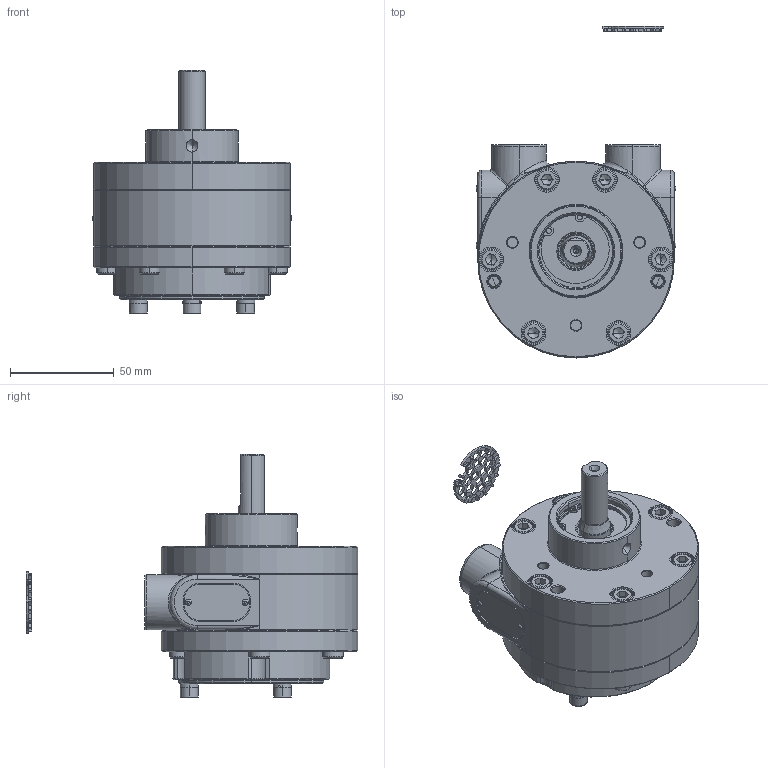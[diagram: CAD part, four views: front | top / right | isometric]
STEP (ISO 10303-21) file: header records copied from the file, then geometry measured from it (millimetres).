
FILE_DESCRIPTION (( 'STEP AP214' ), '1' );
FILE_NAME ('2VMT-SGI (22-04-26)-modify.STEP', '2026-04-22T05:26:56', ( '' ), ( '' ), 'SwSTEP 2.0', 'SolidWorks 2017', '' );
FILE_SCHEMA (( 'AUTOMOTIVE_DESIGN' ));
Length unit declared in the file: millimetre
Products named in the file (2): 2VMT-SGI (22-04-26)-modify
Bounding box: 96.6 x 160.3 x 117.45 mm (x, y, z)
Volume: 190371.6 mm3; surface area: 96970.7 mm2
Topology: 38 solids, 38 shells, 1225 faces, 3130 edges, 1992 vertices
Faces by surface type: plane 518, cylinder 361, cone 235, bspline 111
Entity records: 53288 total; most frequent: CARTESIAN_POINT 12920, DIRECTION 6600, ORIENTED_EDGE 6450, EDGE_CURVE 3225, AXIS2_PLACEMENT_3D 2542, VERTEX_POINT 2083, LINE 1516, VECTOR 1516
